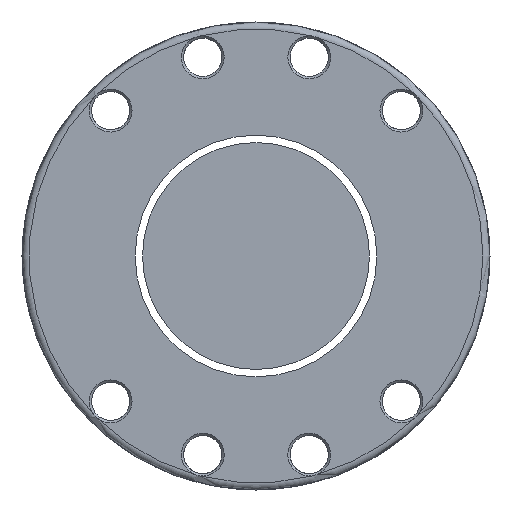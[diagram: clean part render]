
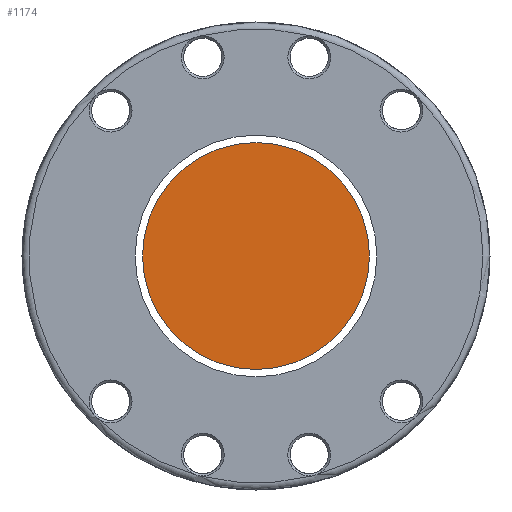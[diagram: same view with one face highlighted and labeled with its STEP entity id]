
A CAD part, left-side view. The second image highlights one B-rep face of the part: STEP entity #1174.
In plain terms, the highlighted planar face has unit normal (-1, 0, 0).
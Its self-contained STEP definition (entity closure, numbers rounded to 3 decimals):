
#206 = CARTESIAN_POINT ( 'NONE',  ( -320., 0., 0. ) ) ;
#236 = CIRCLE ( 'NONE', #2092, 40. ) ;
#339 = VERTEX_POINT ( 'NONE', #1294 ) ;
#909 = PLANE ( 'NONE',  #2303 ) ;
#1169 = DIRECTION ( 'NONE',  ( 1., 0., 0. ) ) ;
#1174 = ADVANCED_FACE ( 'NONE', ( #2352 ), #909, .T. ) ;
#1294 = CARTESIAN_POINT ( 'NONE',  ( -320., 0., -40. ) ) ;
#1622 = EDGE_LOOP ( 'NONE', ( #1725 ) ) ;
#1634 = DIRECTION ( 'NONE',  ( -1., 0., 0. ) ) ;
#1643 = DIRECTION ( 'NONE',  ( 0., 0., -1. ) ) ;
#1650 = DIRECTION ( 'NONE',  ( 0., 0., 1. ) ) ;
#1725 = ORIENTED_EDGE ( 'NONE', *, *, #2593, .F. ) ;
#2092 = AXIS2_PLACEMENT_3D ( 'NONE', #206, #1169, #1643 ) ;
#2303 = AXIS2_PLACEMENT_3D ( 'NONE', #2582, #1634, #1650 ) ;
#2352 = FACE_OUTER_BOUND ( 'NONE', #1622, .T. ) ;
#2582 = CARTESIAN_POINT ( 'NONE',  ( -320., 0., 0. ) ) ;
#2593 = EDGE_CURVE ( 'NONE', #339, #339, #236, .T. ) ;
